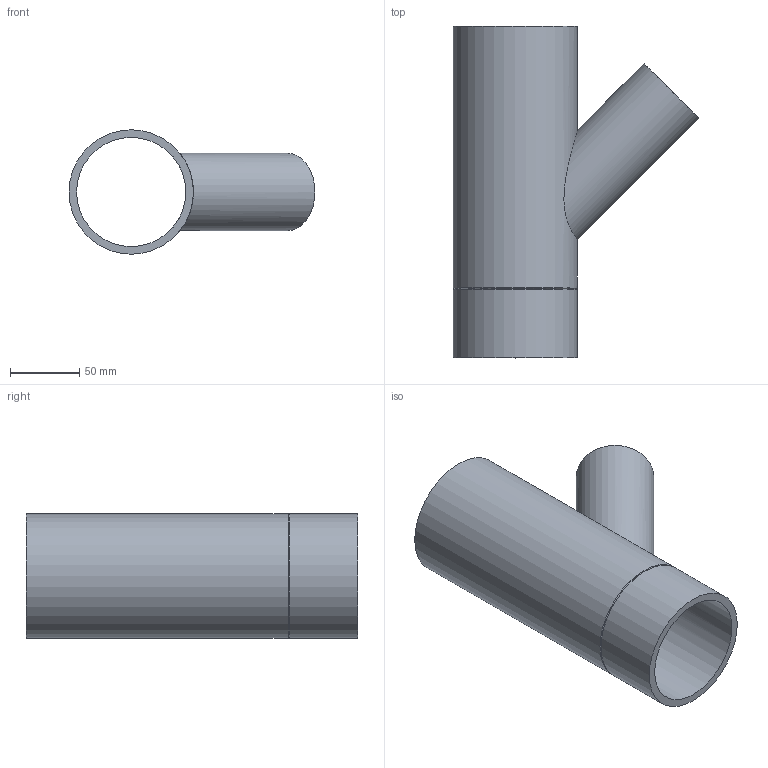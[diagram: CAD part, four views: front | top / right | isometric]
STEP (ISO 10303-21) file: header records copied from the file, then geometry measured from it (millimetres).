
FILE_DESCRIPTION(/* description */ (''),/* implementation_level */ '2;1');
FILE_NAME(/* name */ 'Z:\Geberit\Export\Export18\Abzweig Gerade_Ipart\stp\308054.stp',/* time_stamp */ '2014-08-26T21:51:10+02:00',/* author */ ('ML'),/* organization */ (''),/* preprocessor_version */ 'ST-DEVELOPER v15.2',/* originating_system */ 'Autodesk Inventor 2014',/* authorisation */ '');
FILE_SCHEMA (('AUTOMOTIVE_DESIGN { 1 0 10303 214 3 1 1 }'));
Length unit declared in the file: millimetre
Products named in the file (1): 308054
Bounding box: 177.94 x 240 x 90 mm (x, y, z)
Volume: 388870.2 mm3; surface area: 159871.8 mm2
Topology: 1 solids, 1 shells, 10 faces, 25 edges, 17 vertices
Faces by surface type: cylinder 5, plane 3, cone 2
Full cylindrical faces by diameter (mm): 49.6 x1, 56 x1, 79 x1, 90 x2
Entity records: 355 total; most frequent: CARTESIAN_POINT 151, DIRECTION 40, EDGE_LOOP 22, ORIENTED_EDGE 22, AXIS2_PLACEMENT_3D 20, FACE_BOUND 17, VERTEX_POINT 11, EDGE_CURVE 11
